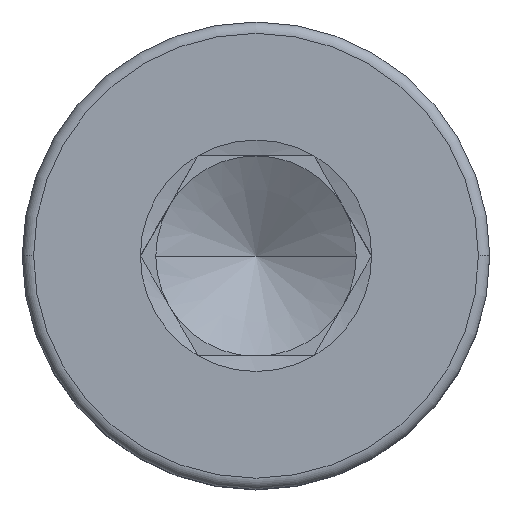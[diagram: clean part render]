
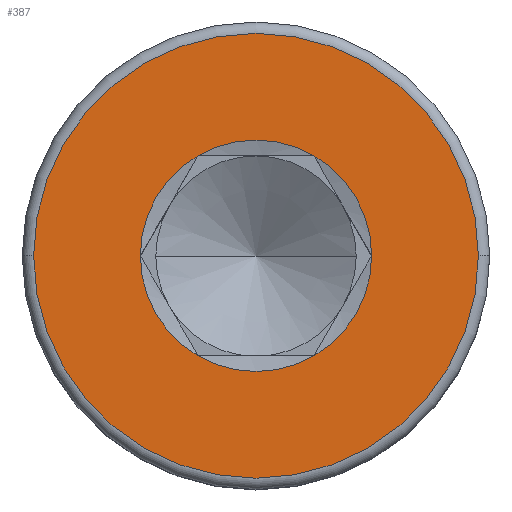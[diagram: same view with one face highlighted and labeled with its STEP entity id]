
A CAD part, top view. The second image highlights one B-rep face of the part: STEP entity #387.
In plain terms, the highlighted planar face has unit normal (0, 0, 1).
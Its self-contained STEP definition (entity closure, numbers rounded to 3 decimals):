
#15 = ORIENTED_EDGE ( 'NONE', *, *, #210, .F. ) ;
#16 = CARTESIAN_POINT ( 'NONE',  ( 0.866, -1.5, 4. ) ) ;
#25 = ORIENTED_EDGE ( 'NONE', *, *, #1313, .T. ) ;
#37 = AXIS2_PLACEMENT_3D ( 'NONE', #1715, #1285, #44 ) ;
#44 = DIRECTION ( 'NONE',  ( 1., 0., 0. ) ) ;
#70 = CARTESIAN_POINT ( 'NONE',  ( 0.866, 1.5, 4. ) ) ;
#75 = FACE_OUTER_BOUND ( 'NONE', #445, .T. ) ;
#114 = AXIS2_PLACEMENT_3D ( 'NONE', #1194, #192, #1028 ) ;
#192 = DIRECTION ( 'NONE',  ( 0., 0., 1. ) ) ;
#193 = CARTESIAN_POINT ( 'NONE',  ( -0.866, 1.5, 4. ) ) ;
#210 = EDGE_CURVE ( 'NONE', #851, #1324, #636, .T. ) ;
#251 = DIRECTION ( 'NONE',  ( 0., 0., 1. ) ) ;
#267 = DIRECTION ( 'NONE',  ( 0., 0., 1. ) ) ;
#281 = VERTEX_POINT ( 'NONE', #1125 ) ;
#290 = CARTESIAN_POINT ( 'NONE',  ( -1.732, 0., 4. ) ) ;
#296 = AXIS2_PLACEMENT_3D ( 'NONE', #626, #1579, #1032 ) ;
#333 = DIRECTION ( 'NONE',  ( 1., 0., 0. ) ) ;
#357 = ORIENTED_EDGE ( 'NONE', *, *, #455, .F. ) ;
#359 = CARTESIAN_POINT ( 'NONE',  ( 1.732, 0., 4. ) ) ;
#387 = ADVANCED_FACE ( 'NONE', ( #75, #740 ), #1584, .T. ) ;
#388 = VERTEX_POINT ( 'NONE', #193 ) ;
#433 = ORIENTED_EDGE ( 'NONE', *, *, #1419, .F. ) ;
#445 = EDGE_LOOP ( 'NONE', ( #1630, #25 ) ) ;
#455 = EDGE_CURVE ( 'NONE', #388, #663, #776, .T. ) ;
#477 = VERTEX_POINT ( 'NONE', #938 ) ;
#604 = DIRECTION ( 'NONE',  ( 1., 0., 0. ) ) ;
#626 = CARTESIAN_POINT ( 'NONE',  ( 0., 0., 4. ) ) ;
#636 = CIRCLE ( 'NONE', #753, 1.732 ) ;
#638 = CIRCLE ( 'NONE', #37, 1.732 ) ;
#663 = VERTEX_POINT ( 'NONE', #290 ) ;
#684 = DIRECTION ( 'NONE',  ( 1., 0., 0. ) ) ;
#740 = FACE_BOUND ( 'NONE', #1381, .T. ) ;
#746 = CARTESIAN_POINT ( 'NONE',  ( -0.866, -1.5, 4. ) ) ;
#753 = AXIS2_PLACEMENT_3D ( 'NONE', #1342, #1199, #826 ) ;
#776 = CIRCLE ( 'NONE', #1036, 1.732 ) ;
#818 = VERTEX_POINT ( 'NONE', #746 ) ;
#821 = ORIENTED_EDGE ( 'NONE', *, *, #883, .F. ) ;
#826 = DIRECTION ( 'NONE',  ( 1., 0., 0. ) ) ;
#851 = VERTEX_POINT ( 'NONE', #359 ) ;
#883 = EDGE_CURVE ( 'NONE', #1116, #851, #1420, .T. ) ;
#914 = EDGE_CURVE ( 'NONE', #477, #281, #1305, .T. ) ;
#923 = CIRCLE ( 'NONE', #296, 3.33 ) ;
#937 = ORIENTED_EDGE ( 'NONE', *, *, #966, .F. ) ;
#938 = CARTESIAN_POINT ( 'NONE',  ( 3.33, 0., 4. ) ) ;
#966 = EDGE_CURVE ( 'NONE', #663, #818, #1477, .T. ) ;
#987 = ORIENTED_EDGE ( 'NONE', *, *, #1666, .F. ) ;
#1028 = DIRECTION ( 'NONE',  ( 1., 0., 0. ) ) ;
#1032 = DIRECTION ( 'NONE',  ( 1., 0., 0. ) ) ;
#1036 = AXIS2_PLACEMENT_3D ( 'NONE', #1175, #1195, #604 ) ;
#1116 = VERTEX_POINT ( 'NONE', #16 ) ;
#1125 = CARTESIAN_POINT ( 'NONE',  ( -3.33, 0., 4. ) ) ;
#1175 = CARTESIAN_POINT ( 'NONE',  ( 0., 0., 4. ) ) ;
#1194 = CARTESIAN_POINT ( 'NONE',  ( 0., 0., 4. ) ) ;
#1195 = DIRECTION ( 'NONE',  ( 0., 0., 1. ) ) ;
#1199 = DIRECTION ( 'NONE',  ( 0., 0., 1. ) ) ;
#1212 = AXIS2_PLACEMENT_3D ( 'NONE', #1486, #267, #684 ) ;
#1215 = CARTESIAN_POINT ( 'NONE',  ( 0., 0., 4. ) ) ;
#1285 = DIRECTION ( 'NONE',  ( 0., 0., 1. ) ) ;
#1305 = CIRCLE ( 'NONE', #1768, 3.33 ) ;
#1313 = EDGE_CURVE ( 'NONE', #281, #477, #923, .T. ) ;
#1324 = VERTEX_POINT ( 'NONE', #70 ) ;
#1342 = CARTESIAN_POINT ( 'NONE',  ( 0., 0., 4. ) ) ;
#1381 = EDGE_LOOP ( 'NONE', ( #15, #821, #987, #937, #357, #433 ) ) ;
#1418 = AXIS2_PLACEMENT_3D ( 'NONE', #1740, #1714, #333 ) ;
#1419 = EDGE_CURVE ( 'NONE', #1324, #388, #1569, .T. ) ;
#1420 = CIRCLE ( 'NONE', #114, 1.732 ) ;
#1449 = DIRECTION ( 'NONE',  ( 1., 0., 0. ) ) ;
#1477 = CIRCLE ( 'NONE', #1212, 1.732 ) ;
#1486 = CARTESIAN_POINT ( 'NONE',  ( 0., 0., 4. ) ) ;
#1569 = CIRCLE ( 'NONE', #1651, 1.732 ) ;
#1579 = DIRECTION ( 'NONE',  ( 0., 0., 1. ) ) ;
#1584 = PLANE ( 'NONE',  #1418 ) ;
#1601 = DIRECTION ( 'NONE',  ( 0., 0., 1. ) ) ;
#1630 = ORIENTED_EDGE ( 'NONE', *, *, #914, .T. ) ;
#1651 = AXIS2_PLACEMENT_3D ( 'NONE', #1215, #251, #1752 ) ;
#1666 = EDGE_CURVE ( 'NONE', #818, #1116, #638, .T. ) ;
#1714 = DIRECTION ( 'NONE',  ( 0., 0., 1. ) ) ;
#1715 = CARTESIAN_POINT ( 'NONE',  ( 0., 0., 4. ) ) ;
#1740 = CARTESIAN_POINT ( 'NONE',  ( 0., 0., 4. ) ) ;
#1747 = CARTESIAN_POINT ( 'NONE',  ( 0., 0., 4. ) ) ;
#1752 = DIRECTION ( 'NONE',  ( 1., 0., 0. ) ) ;
#1768 = AXIS2_PLACEMENT_3D ( 'NONE', #1747, #1601, #1449 ) ;
